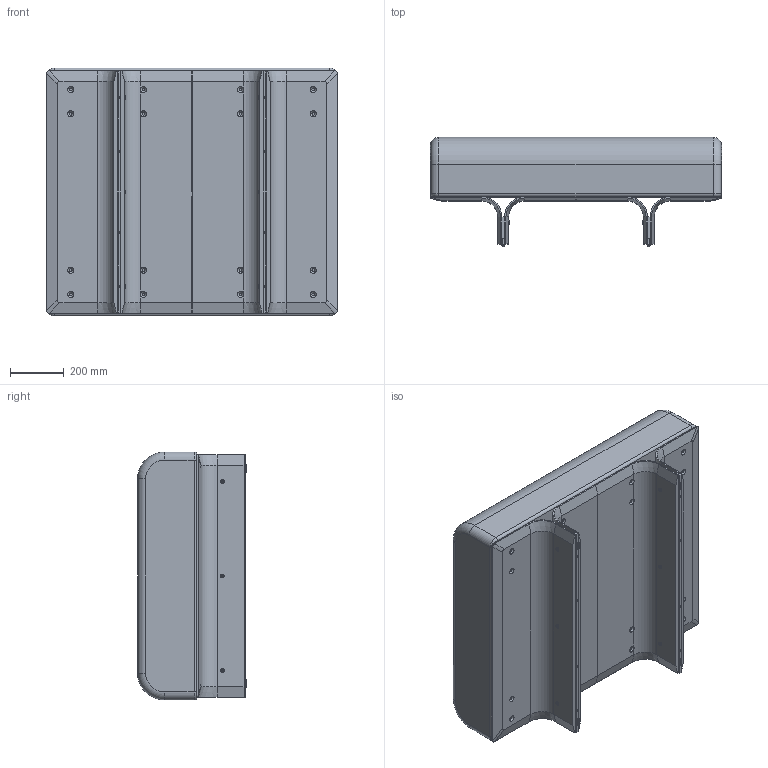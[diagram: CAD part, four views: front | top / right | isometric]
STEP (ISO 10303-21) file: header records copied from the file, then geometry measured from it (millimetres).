
FILE_DESCRIPTION (( 'STEP AP214' ), '1' );
FILE_NAME ('1080 pouff.STEP', '2024-06-05T12:47:27', ( '' ), ( '' ), 'SwSTEP 2.0', 'SolidWorks 2023', '' );
FILE_SCHEMA (( 'AUTOMOTIVE_DESIGN' ));
Length unit declared in the file: millimetre
Products named in the file (9): BASE_DISTANZIALE_1cm; SEDILE_1080 POUFF GOMMA VERIFICARE; boccola_borchia M6; BASE_COMPONENTI_SEMIPONTE CENTRALE; STAMI_SOFA_PLUS_BASE_ASSIEME_1080 CENTRALE o POUFF; 20PT8X30N scivolo IPEA; BASE_COMPONENTI_SEMIPONTE TERMINALE; PIEDINO_L900; 1080 pouff
Assembly tree (26 placements, depth 3):
  1080 pouff
    STAMI_SOFA_PLUS_BASE_ASSIEME_1080 CENTRALE o POUFF
      BASE_DISTANZIALE_1cm  x2
      PIEDINO_L900  x2
      20PT8X30N scivolo IPEA  x4
      BASE_COMPONENTI_SEMIPONTE CENTRALE  x2
      BASE_COMPONENTI_SEMIPONTE TERMINALE  x2
      boccola_borchia M6  x12
    SEDILE_1080 POUFF GOMMA VERIFICARE
Bounding box: 1080 x 404 x 920 mm (x, y, z)
Volume: 235073486.7 mm3; surface area: 6211479.3 mm2
Topology: 25 solids, 25 shells, 660 faces, 1562 edges, 948 vertices
Faces by surface type: cylinder 296, plane 236, cone 72, torus 40, sphere 16
Entity records: 7388 total; most frequent: DIRECTION 1355, CARTESIAN_POINT 1240, ORIENTED_EDGE 1126, EDGE_CURVE 563, AXIS2_PLACEMENT_3D 537, VERTEX_POINT 346, EDGE_LOOP 291, VECTOR 281
